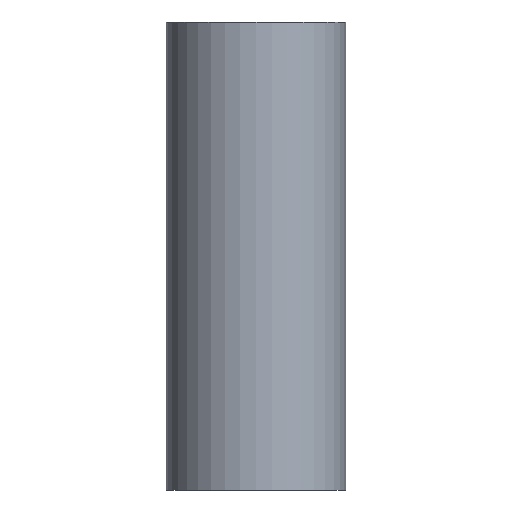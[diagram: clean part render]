
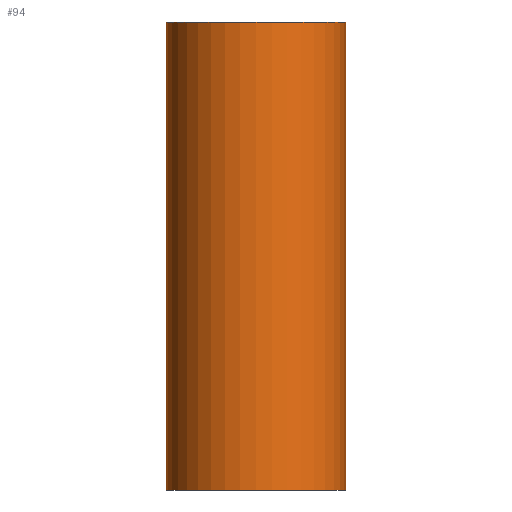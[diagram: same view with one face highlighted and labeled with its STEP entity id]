
A CAD part, front view. The second image highlights one B-rep face of the part: STEP entity #94.
In plain terms, the highlighted cylindrical face has radius 5.75 mm (diameter 11.5 mm), a partial arc.
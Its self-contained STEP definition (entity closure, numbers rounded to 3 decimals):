
#26 = DIRECTION ( 'NONE',  ( 0., 0., 1. ) ) ;
#33 = VECTOR ( 'NONE', #145, 1000. ) ;
#35 = CARTESIAN_POINT ( 'NONE',  ( -5.75, 0., 30. ) ) ;
#44 = FACE_OUTER_BOUND ( 'NONE', #186, .T. ) ;
#52 = EDGE_CURVE ( 'NONE', #168, #265, #157, .T. ) ;
#65 = LINE ( 'NONE', #35, #33 ) ;
#66 = CIRCLE ( 'NONE', #127, 5.75 ) ;
#70 = VECTOR ( 'NONE', #304, 1000. ) ;
#71 = CARTESIAN_POINT ( 'NONE',  ( 0., 0., 0. ) ) ;
#89 = CYLINDRICAL_SURFACE ( 'NONE', #285, 5.75 ) ;
#94 = ADVANCED_FACE ( 'NONE', ( #44 ), #89, .T. ) ;
#100 = AXIS2_PLACEMENT_3D ( 'NONE', #71, #26, #241 ) ;
#112 = EDGE_CURVE ( 'NONE', #251, #265, #260, .T. ) ;
#125 = DIRECTION ( 'NONE',  ( 0., 0., 1. ) ) ;
#127 = AXIS2_PLACEMENT_3D ( 'NONE', #294, #125, #210 ) ;
#129 = CARTESIAN_POINT ( 'NONE',  ( 0., 0., 30. ) ) ;
#131 = CARTESIAN_POINT ( 'NONE',  ( -5.75, 0., 0. ) ) ;
#135 = EDGE_CURVE ( 'NONE', #240, #251, #66, .T. ) ;
#142 = DIRECTION ( 'NONE',  ( -1., 0., 0. ) ) ;
#145 = DIRECTION ( 'NONE',  ( 0., 0., -1. ) ) ;
#147 = CARTESIAN_POINT ( 'NONE',  ( -5.75, 0., 30. ) ) ;
#157 = CIRCLE ( 'NONE', #100, 5.75 ) ;
#163 = EDGE_CURVE ( 'NONE', #240, #168, #65, .T. ) ;
#168 = VERTEX_POINT ( 'NONE', #131 ) ;
#183 = CARTESIAN_POINT ( 'NONE',  ( 5.75, 0., 30. ) ) ;
#186 = EDGE_LOOP ( 'NONE', ( #297, #216, #227, #280 ) ) ;
#200 = CARTESIAN_POINT ( 'NONE',  ( 5.75, 0., 0. ) ) ;
#210 = DIRECTION ( 'NONE',  ( 1., 0., 0. ) ) ;
#216 = ORIENTED_EDGE ( 'NONE', *, *, #135, .F. ) ;
#220 = DIRECTION ( 'NONE',  ( 0., 0., -1. ) ) ;
#226 = CARTESIAN_POINT ( 'NONE',  ( 5.75, 0., 30. ) ) ;
#227 = ORIENTED_EDGE ( 'NONE', *, *, #163, .T. ) ;
#240 = VERTEX_POINT ( 'NONE', #147 ) ;
#241 = DIRECTION ( 'NONE',  ( 1., 0., 0. ) ) ;
#251 = VERTEX_POINT ( 'NONE', #226 ) ;
#260 = LINE ( 'NONE', #183, #70 ) ;
#265 = VERTEX_POINT ( 'NONE', #200 ) ;
#280 = ORIENTED_EDGE ( 'NONE', *, *, #52, .T. ) ;
#285 = AXIS2_PLACEMENT_3D ( 'NONE', #129, #220, #142 ) ;
#294 = CARTESIAN_POINT ( 'NONE',  ( 0., 0., 30. ) ) ;
#297 = ORIENTED_EDGE ( 'NONE', *, *, #112, .F. ) ;
#304 = DIRECTION ( 'NONE',  ( 0., 0., -1. ) ) ;
